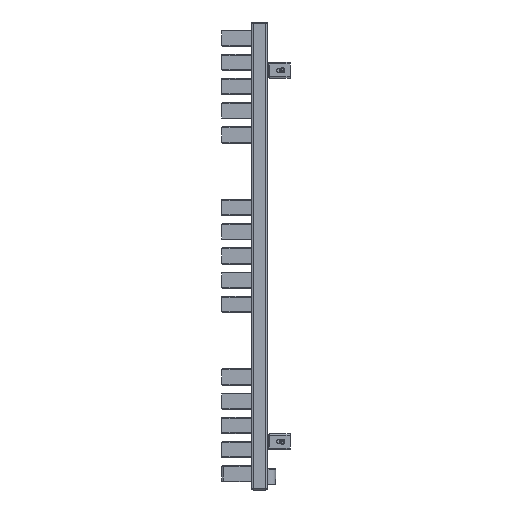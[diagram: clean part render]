
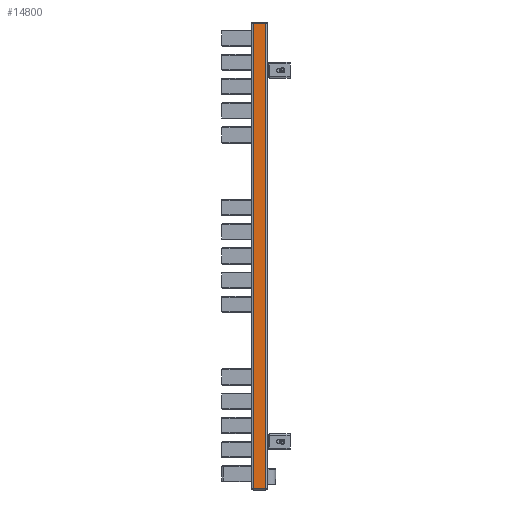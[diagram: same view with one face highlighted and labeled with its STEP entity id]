
A CAD part, left-side view. The second image highlights one B-rep face of the part: STEP entity #14800.
In plain terms, the highlighted planar face has unit normal (-1, 0, 0).
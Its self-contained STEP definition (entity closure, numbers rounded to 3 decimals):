
#14634=CARTESIAN_POINT('',(-300.0,-12.,867.0));
#14635=VERTEX_POINT('',#14634);
#14644=CARTESIAN_POINT('',(-300.0,12.,867.0));
#14645=VERTEX_POINT('',#14644);
#14653=CARTESIAN_POINT('',(-300.0,12.,867.0));
#14654=DIRECTION('',(0.0,-1.0,0.0));
#14655=VECTOR('',#14654,24.);
#14656=LINE('',#14653,#14655);
#14657=EDGE_CURVE('',#14645,#14635,#14656,.T.);
#14758=CARTESIAN_POINT('',(-300.0,-12.,3.0));
#14759=VERTEX_POINT('',#14758);
#14760=CARTESIAN_POINT('',(-300.0,-12.,3.0));
#14761=DIRECTION('',(0.0,0.0,1.0));
#14762=VECTOR('',#14761,864.0);
#14763=LINE('',#14760,#14762);
#14764=EDGE_CURVE('',#14759,#14635,#14763,.T.);
#14777=CARTESIAN_POINT('',(-300.0,-12.,0.0));
#14778=DIRECTION('',(-1.0,0.0,0.0));
#14779=DIRECTION('',(0.0,0.0,1.0));
#14780=AXIS2_PLACEMENT_3D('',#14777,#14778,#14779);
#14781=PLANE('',#14780);
#14782=ORIENTED_EDGE('',*,*,#14657,.F.);
#14783=CARTESIAN_POINT('',(-300.0,12.,3.0));
#14784=VERTEX_POINT('',#14783);
#14785=CARTESIAN_POINT('',(-300.0,12.,3.0));
#14786=DIRECTION('',(0.0,0.0,1.0));
#14787=VECTOR('',#14786,864.0);
#14788=LINE('',#14785,#14787);
#14789=EDGE_CURVE('',#14784,#14645,#14788,.T.);
#14790=ORIENTED_EDGE('',*,*,#14789,.F.);
#14791=CARTESIAN_POINT('',(-300.0,-12.,3.0));
#14792=DIRECTION('',(0.0,1.0,0.0));
#14793=VECTOR('',#14792,24.);
#14794=LINE('',#14791,#14793);
#14795=EDGE_CURVE('',#14759,#14784,#14794,.T.);
#14796=ORIENTED_EDGE('',*,*,#14795,.F.);
#14797=ORIENTED_EDGE('',*,*,#14764,.T.);
#14798=EDGE_LOOP('',(#14782,#14790,#14796,#14797));
#14799=FACE_OUTER_BOUND('',#14798,.T.);
#14800=ADVANCED_FACE('',(#14799),#14781,.T.);
